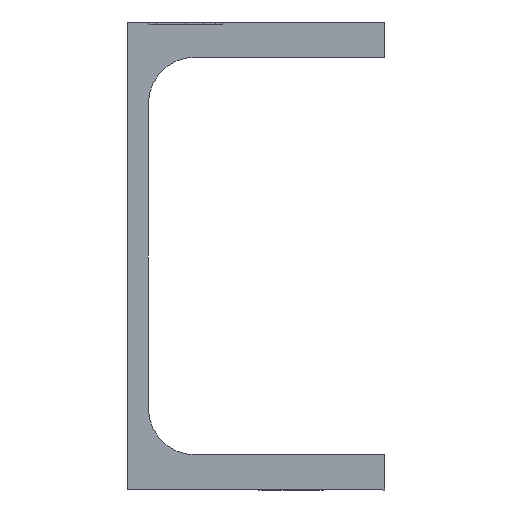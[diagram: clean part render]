
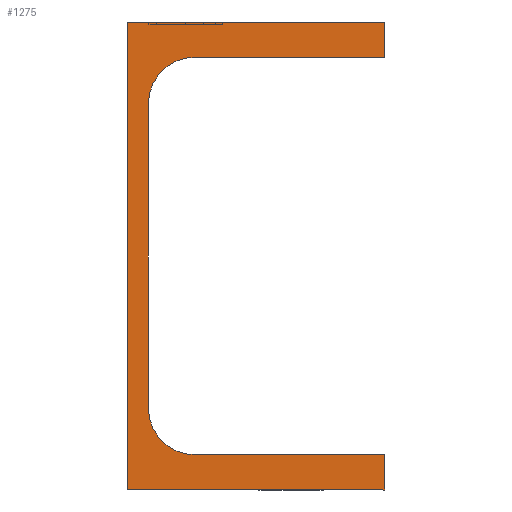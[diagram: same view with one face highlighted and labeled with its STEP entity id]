
A CAD part, left-side view. The second image highlights one B-rep face of the part: STEP entity #1275.
In plain terms, the highlighted planar face has unit normal (-1, 0, 0).
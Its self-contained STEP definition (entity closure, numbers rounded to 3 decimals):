
#23 = EDGE_CURVE ( 'NONE', #3956, #477, #2725, .T. ) ;
#38 = ORIENTED_EDGE ( 'NONE', *, *, #2802, .T. ) ;
#39 = VECTOR ( 'NONE', #955, 1000. ) ;
#204 = CARTESIAN_POINT ( 'NONE',  ( -55., 1995.5, 2307.5 ) ) ;
#223 = DIRECTION ( 'NONE',  ( -1., 0., 0. ) ) ;
#231 = DIRECTION ( 'NONE',  ( 0., 0., 1. ) ) ;
#232 = ORIENTED_EDGE ( 'NONE', *, *, #23, .T. ) ;
#270 = CARTESIAN_POINT ( 'NONE',  ( -55., 1995.5, 2372.5 ) ) ;
#301 = ORIENTED_EDGE ( 'NONE', *, *, #1012, .T. ) ;
#408 = ORIENTED_EDGE ( 'NONE', *, *, #3535, .T. ) ;
#411 = CARTESIAN_POINT ( 'NONE',  ( -55., 2000., 2390. ) ) ;
#463 = VECTOR ( 'NONE', #542, 1000. ) ;
#477 = VERTEX_POINT ( 'NONE', #634 ) ;
#489 = LINE ( 'NONE', #204, #2990 ) ;
#542 = DIRECTION ( 'NONE',  ( 0., -1., 0. ) ) ;
#619 = DIRECTION ( 'NONE',  ( 0., 0., 1. ) ) ;
#620 = ORIENTED_EDGE ( 'NONE', *, *, #3263, .T. ) ;
#634 = CARTESIAN_POINT ( 'NONE',  ( -55., 1945., 2290. ) ) ;
#669 = CIRCLE ( 'NONE', #2854, 10. ) ;
#687 = EDGE_CURVE ( 'NONE', #3986, #1924, #669, .T. ) ;
#863 = VECTOR ( 'NONE', #3143, 1000. ) ;
#871 = CARTESIAN_POINT ( 'NONE',  ( -55., 1945., 2390. ) ) ;
#954 = LINE ( 'NONE', #1276, #463 ) ;
#955 = DIRECTION ( 'NONE',  ( 0., 1., 0. ) ) ;
#995 = DIRECTION ( 'NONE',  ( 1., 0., 0. ) ) ;
#1012 = EDGE_CURVE ( 'NONE', #1924, #2662, #954, .T. ) ;
#1133 = CARTESIAN_POINT ( 'NONE',  ( -55., 2000., 2290. ) ) ;
#1137 = DIRECTION ( 'NONE',  ( 0., 0., 1. ) ) ;
#1153 = CARTESIAN_POINT ( 'NONE',  ( -55., 1985.5, 2382.5 ) ) ;
#1217 = VERTEX_POINT ( 'NONE', #3699 ) ;
#1275 = ADVANCED_FACE ( 'NONE', ( #3842 ), #3157, .T. ) ;
#1276 = CARTESIAN_POINT ( 'NONE',  ( -55., 1985.5, 2382.5 ) ) ;
#1336 = VERTEX_POINT ( 'NONE', #2467 ) ;
#1425 = DIRECTION ( 'NONE',  ( 0., 0., -1. ) ) ;
#1550 = LINE ( 'NONE', #1853, #2641 ) ;
#1613 = AXIS2_PLACEMENT_3D ( 'NONE', #2456, #995, #2303 ) ;
#1707 = ORIENTED_EDGE ( 'NONE', *, *, #2056, .T. ) ;
#1833 = CARTESIAN_POINT ( 'NONE',  ( -55., 1945., 2382.5 ) ) ;
#1846 = EDGE_LOOP ( 'NONE', ( #2239, #1707, #2158, #232, #620, #38, #1861, #408, #1992, #301 ) ) ;
#1853 = CARTESIAN_POINT ( 'NONE',  ( -55., 1945., 2290. ) ) ;
#1861 = ORIENTED_EDGE ( 'NONE', *, *, #3271, .T. ) ;
#1876 = DIRECTION ( 'NONE',  ( 0., 1., 0. ) ) ;
#1924 = VERTEX_POINT ( 'NONE', #1153 ) ;
#1992 = ORIENTED_EDGE ( 'NONE', *, *, #687, .T. ) ;
#2056 = EDGE_CURVE ( 'NONE', #1217, #1336, #3182, .T. ) ;
#2113 = DIRECTION ( 'NONE',  ( 1., 0., 0. ) ) ;
#2158 = ORIENTED_EDGE ( 'NONE', *, *, #2979, .T. ) ;
#2162 = CIRCLE ( 'NONE', #1613, 10. ) ;
#2196 = CARTESIAN_POINT ( 'NONE',  ( -55., 1945., 2297.5 ) ) ;
#2219 = VECTOR ( 'NONE', #3084, 1000. ) ;
#2231 = CARTESIAN_POINT ( 'NONE',  ( -55., -32.5, 2385. ) ) ;
#2239 = ORIENTED_EDGE ( 'NONE', *, *, #3238, .T. ) ;
#2303 = DIRECTION ( 'NONE',  ( 0., 0., 1. ) ) ;
#2456 = CARTESIAN_POINT ( 'NONE',  ( -55., 1985.5, 2307.5 ) ) ;
#2467 = CARTESIAN_POINT ( 'NONE',  ( -55., 2000., 2390. ) ) ;
#2551 = VERTEX_POINT ( 'NONE', #2876 ) ;
#2641 = VECTOR ( 'NONE', #231, 1000. ) ;
#2662 = VERTEX_POINT ( 'NONE', #2980 ) ;
#2725 = LINE ( 'NONE', #3690, #2219 ) ;
#2802 = EDGE_CURVE ( 'NONE', #2862, #2551, #2891, .T. ) ;
#2835 = DIRECTION ( 'NONE',  ( 0., 0., 1. ) ) ;
#2854 = AXIS2_PLACEMENT_3D ( 'NONE', #3691, #2113, #1137 ) ;
#2862 = VERTEX_POINT ( 'NONE', #3559 ) ;
#2876 = CARTESIAN_POINT ( 'NONE',  ( -55., 1985.5, 2297.5 ) ) ;
#2891 = LINE ( 'NONE', #2196, #3871 ) ;
#2979 = EDGE_CURVE ( 'NONE', #1336, #3956, #3334, .T. ) ;
#2980 = CARTESIAN_POINT ( 'NONE',  ( -55., 1945., 2382.5 ) ) ;
#2990 = VECTOR ( 'NONE', #2835, 1000. ) ;
#3084 = DIRECTION ( 'NONE',  ( 0., -1., 0. ) ) ;
#3143 = DIRECTION ( 'NONE',  ( 0., 0., 1. ) ) ;
#3157 = PLANE ( 'NONE',  #3675 ) ;
#3182 = LINE ( 'NONE', #871, #39 ) ;
#3238 = EDGE_CURVE ( 'NONE', #2662, #1217, #3766, .T. ) ;
#3263 = EDGE_CURVE ( 'NONE', #477, #2862, #1550, .T. ) ;
#3271 = EDGE_CURVE ( 'NONE', #2551, #3830, #2162, .T. ) ;
#3334 = LINE ( 'NONE', #411, #4008 ) ;
#3535 = EDGE_CURVE ( 'NONE', #3830, #3986, #489, .T. ) ;
#3559 = CARTESIAN_POINT ( 'NONE',  ( -55., 1945., 2297.5 ) ) ;
#3644 = CARTESIAN_POINT ( 'NONE',  ( -55., 1995.5, 2307.5 ) ) ;
#3675 = AXIS2_PLACEMENT_3D ( 'NONE', #2231, #223, #619 ) ;
#3690 = CARTESIAN_POINT ( 'NONE',  ( -55., 2000., 2290. ) ) ;
#3691 = CARTESIAN_POINT ( 'NONE',  ( -55., 1985.5, 2372.5 ) ) ;
#3699 = CARTESIAN_POINT ( 'NONE',  ( -55., 1945., 2390. ) ) ;
#3766 = LINE ( 'NONE', #1833, #863 ) ;
#3830 = VERTEX_POINT ( 'NONE', #3644 ) ;
#3842 = FACE_OUTER_BOUND ( 'NONE', #1846, .T. ) ;
#3871 = VECTOR ( 'NONE', #1876, 1000. ) ;
#3956 = VERTEX_POINT ( 'NONE', #1133 ) ;
#3986 = VERTEX_POINT ( 'NONE', #270 ) ;
#4008 = VECTOR ( 'NONE', #1425, 1000. ) ;
